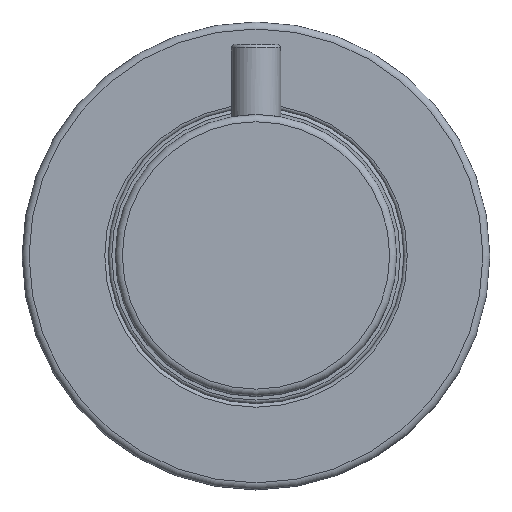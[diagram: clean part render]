
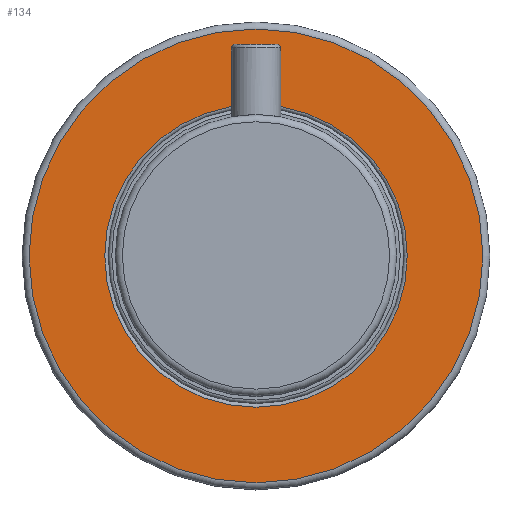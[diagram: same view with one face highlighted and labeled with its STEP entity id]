
A CAD part, top view. The second image highlights one B-rep face of the part: STEP entity #134.
In plain terms, the highlighted planar face has unit normal (0, 0, 1).
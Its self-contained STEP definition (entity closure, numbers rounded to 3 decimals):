
#134=ADVANCED_FACE('',(#294,#296),#298,.T.);
#294=FACE_BOUND('',#295,.T.);
#295=EDGE_LOOP('',(#390));
#296=FACE_BOUND('',#297,.T.);
#297=EDGE_LOOP('',(#391));
#298=PLANE('',#299);
#299=AXIS2_PLACEMENT_3D('',#300,#301,#302);
#300=CARTESIAN_POINT('',(0.,0.,12.));
#301=DIRECTION('',(0.,0.,1.));
#302=DIRECTION('',(1.,0.,0.));
#390=ORIENTED_EDGE('',*,*,#417,.T.);
#391=ORIENTED_EDGE('',*,*,#416,.T.);
#416=EDGE_CURVE('',#442,#442,#443,.F.);
#417=EDGE_CURVE('',#444,#444,#445,.T.);
#442=VERTEX_POINT('',#567);
#443=CIRCLE('',#568,21.5);
#444=VERTEX_POINT('',#572);
#445=CIRCLE('',#573,32.25);
#567=CARTESIAN_POINT('',(21.5,0.,12.));
#568=AXIS2_PLACEMENT_3D('',#569,#570,#571);
#569=CARTESIAN_POINT('',(0.,0.,12.));
#570=DIRECTION('',(0.,0.,1.));
#571=DIRECTION('',(1.,0.,0.));
#572=CARTESIAN_POINT('',(32.25,0.,12.));
#573=AXIS2_PLACEMENT_3D('',#574,#575,#576);
#574=CARTESIAN_POINT('',(0.,0.,12.));
#575=DIRECTION('',(0.,0.,1.));
#576=DIRECTION('',(1.,0.,0.));
